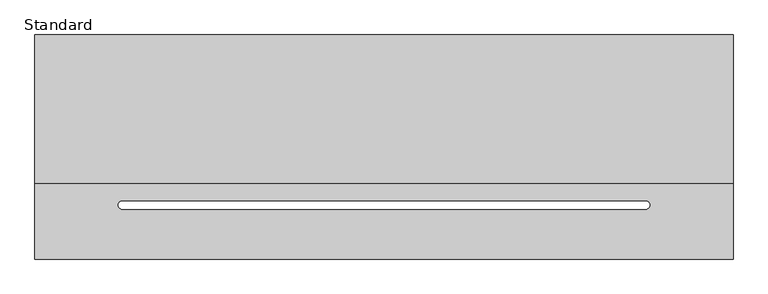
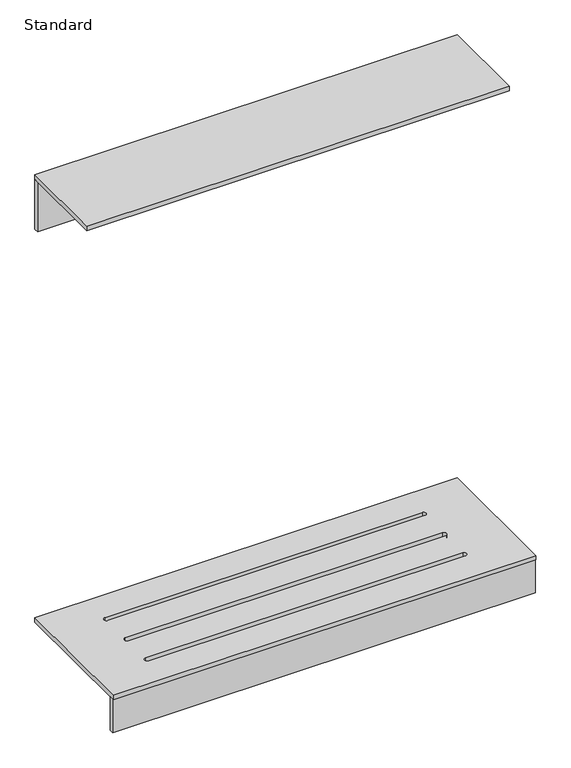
"""IFC4 building model written with IfcOpenShell, lengths in millimetres: furniture geometry, X_Bench-Wall-Duracube-Standard : Standard."""

import ifcopenshell
import ifcopenshell.guid

model = None  # the IFC model being written
_history = None  # IfcOwnerHistory: only IFC2X3 demands one
_inside = {}  # id of a spatial element -> (the spatial element, [elements in it])
_under = {}  # id of a project, library or spatial element -> (it, [spatial elements below it])
_declared = {}  # id of a project -> (the project, [libraries it declares])
_typed = {}  # id of a type object -> (the type object, [elements of that type])
_made_of = {}  # id of a material, layer set ... -> (it, [elements and type objects made of it])


def new_model(schema):
    """Start an empty IFC model of exactly this schema.

    Asked for "IFC4X3", IfcOpenShell would pick the latest addendum, in which some entities
    have other attributes; the version numbers below select the first issue.
    IFC2X3 requires an IfcOwnerHistory on every rooted entity: one is made here for all.
    """
    global model, _history
    if schema == "IFC4X3":
        model = ifcopenshell.file(schema_version=(4, 3, 0, 0))
    else:
        model = ifcopenshell.file(schema=schema)
    _inside.clear()
    _under.clear()
    _declared.clear()
    _typed.clear()
    _made_of.clear()
    _history = None
    if model.schema == "IFC2X3":
        org = make("IfcOrganization", Name="unknown")
        user = make(
            "IfcPersonAndOrganization",
            ThePerson=make("IfcPerson", FamilyName="unknown"),
            TheOrganization=org,
        )
        app = make(
            "IfcApplication",
            ApplicationDeveloper=org,
            Version="unknown",
            ApplicationFullName="unknown",
            ApplicationIdentifier="unknown",
        )
        _history = make(
            "IfcOwnerHistory",
            OwningUser=user,
            OwningApplication=app,
            ChangeAction="ADDED",
            CreationDate=0,
        )
    return model


def make(cls, **values):
    """One entity of the class cls with the attributes given. An attribute that is None is left unset."""
    return model.create_entity(
        cls, **{name: value for name, value in values.items() if value is not None}
    )


def rooted(cls, **values):
    """An entity with a GlobalId (a new one), such as an element, a storey or a relation."""
    return make(cls, GlobalId=ifcopenshell.guid.new(), OwnerHistory=_history, **values)


def si_unit(unit_type, name, prefix=None):
    """IfcSIUnit, for example si_unit("LENGTHUNIT", "METRE", prefix="MILLI")."""
    return make("IfcSIUnit", UnitType=unit_type, Prefix=prefix, Name=name)


def assignment(units):
    """IfcUnitAssignment: the units of a project."""
    return None if units is None else make("IfcUnitAssignment", Units=units)


def point(xyz):
    """IfcCartesianPoint."""
    return None if xyz is None else make("IfcCartesianPoint", Coordinates=xyz)


def direction(xyz):
    """IfcDirection."""
    return None if xyz is None else make("IfcDirection", DirectionRatios=xyz)


def frame(location, z_axis=None, x_axis=None):
    """IfcAxis2Placement3D, a coordinate frame: its origin and axes. An axis left out is left unset."""
    return make(
        "IfcAxis2Placement3D",
        Location=point(location),
        Axis=direction(z_axis),
        RefDirection=direction(x_axis),
    )


def frame_2d(location, x_axis=None):
    """IfcAxis2Placement2D, a coordinate frame in the plane: its origin and x axis."""
    return make(
        "IfcAxis2Placement2D", Location=point(location), RefDirection=direction(x_axis)
    )


def origin():
    """The frame at (0, 0, 0) with its axes left unset."""
    return frame((0.0, 0.0, 0.0))


def place(relative_to, where):
    """IfcLocalPlacement: puts the frame where relative to a parent placement (None: the world)."""
    return make(
        "IfcLocalPlacement", PlacementRelTo=relative_to, RelativePlacement=where
    )


def context(
    kind, dimensions, precision=None, world=None, true_north=None, identifier=None
):
    """IfcGeometricRepresentationContext, for example the 3D "Model" context."""
    return make(
        "IfcGeometricRepresentationContext",
        ContextIdentifier=identifier,
        ContextType=kind,
        CoordinateSpaceDimension=dimensions,
        Precision=precision,
        WorldCoordinateSystem=world,
        TrueNorth=true_north,
    )


def project(units=None, contexts=None):
    """IfcProject with its units and contexts."""
    return rooted(
        "IfcProject",
        Name="project",
        RepresentationContexts=contexts,
        UnitsInContext=assignment(units),
    )


def spatial(cls, under=None, at=None, **own):
    """A site, building, storey or space (cls), placed at a placement, below another one or the project."""
    s = rooted(cls, ObjectPlacement=at, **own)
    if under is not None:
        _under.setdefault(under.id(), (under, []))[1].append(s)
    return s


def polyline(points):
    """IfcPolyline through the points."""
    return make("IfcPolyline", Points=[point(p) for p in points])


def circle_curve(where, radius):
    """IfcCircle in the frame where."""
    return make("IfcCircle", Position=where, Radius=radius)


def trimmed(basis, trim1, trim2, sense, master):
    """IfcTrimmedCurve: the piece of a basis curve between two trims."""
    return make(
        "IfcTrimmedCurve",
        BasisCurve=basis,
        Trim1=trim1,
        Trim2=trim2,
        SenseAgreement=sense,
        MasterRepresentation=master,
    )


def segment(curve, same_sense, transition):
    """IfcCompositeCurveSegment."""
    return make(
        "IfcCompositeCurveSegment",
        Transition=transition,
        SameSense=same_sense,
        ParentCurve=curve,
    )


def composite_curve(segments, self_intersect=None):
    """IfcCompositeCurve: segments joined end to end."""
    return make("IfcCompositeCurve", Segments=segments, SelfIntersect=self_intersect)


def outline(outer, holes=None, kind="AREA"):
    """IfcArbitraryClosedProfileDef: a profile drawn as a closed curve; with holes, ...WithVoids."""
    if holes is None:
        return make("IfcArbitraryClosedProfileDef", ProfileType=kind, OuterCurve=outer)
    return make(
        "IfcArbitraryProfileDefWithVoids",
        ProfileType=kind,
        OuterCurve=outer,
        InnerCurves=holes,
    )


def extrude(swept, where, along, depth):
    """IfcExtrudedAreaSolid: the profile swept, set in the frame where, extruded along a direction by depth."""
    return make(
        "IfcExtrudedAreaSolid",
        SweptArea=swept,
        Position=where,
        ExtrudedDirection=direction(along),
        Depth=depth,
    )


def shape(context_of_items, identifier, shape_type, items):
    """IfcShapeRepresentation: the items that make up one representation, for example the "Body"."""
    return make(
        "IfcShapeRepresentation",
        ContextOfItems=context_of_items,
        RepresentationIdentifier=identifier,
        RepresentationType=shape_type,
        Items=items,
    )


def source(mapping_origin, context_of_items, identifier, shape_type, items):
    """IfcRepresentationMap: a shape defined once, which mapped items show again and again."""
    return make(
        "IfcRepresentationMap",
        MappingOrigin=mapping_origin,
        MappedRepresentation=shape(context_of_items, identifier, shape_type, items),
    )


def transform(
    local_origin,
    x_axis=None,
    y_axis=None,
    z_axis=None,
    scale=None,
    scale2=None,
    scale3=None,
    uniform=True,
):
    """IfcCartesianTransformationOperator3D, or its non-uniform kind. x_axis, y_axis, z_axis: its Axis1, 2, 3."""
    if uniform:
        return make(
            "IfcCartesianTransformationOperator3D",
            Axis1=direction(x_axis),
            Axis2=direction(y_axis),
            LocalOrigin=point(local_origin),
            Scale=scale,
            Axis3=direction(z_axis),
        )
    return make(
        "IfcCartesianTransformationOperator3DnonUniform",
        Axis1=direction(x_axis),
        Axis2=direction(y_axis),
        LocalOrigin=point(local_origin),
        Scale=scale,
        Axis3=direction(z_axis),
        Scale2=scale2,
        Scale3=scale3,
    )


def mapped(mapping_source, mapping_target):
    """IfcMappedItem: shows the shape of a source again, moved by a transform."""
    return make(
        "IfcMappedItem", MappingSource=mapping_source, MappingTarget=mapping_target
    )


def made_of(thing, what):
    """Note that an element or type object is made of a material, layer set ...; save() writes the relation."""
    if what is not None:
        _made_of.setdefault(what.id(), (what, []))[1].append(thing)
    return thing


def element(
    cls,
    number,
    at=None,
    inside=None,
    cuts=None,
    type_object=None,
    material=None,
    context=None,
    identifier="Body",
    shape_type=None,
    held_by="IfcProductDefinitionShape",
    body=None,
    shapes=None,
    **own,
):
    """One element of the class cls, such as IfcWall. Its Tag is "e" and its number.

    at: its placement. inside: the storey or other place that contains it. cuts: it is an
    opening in that element (IfcRelVoidsElement). A single representation is given by context,
    identifier, shape_type and body (its items); several are given by shapes. held_by: the class
    of the entity that holds the representations. save() writes the other relations.
    """
    e = rooted(cls, Tag="e%d" % number, ObjectPlacement=at, **own)
    if body is not None:
        shapes = [shape(context, identifier, shape_type, body)]
    if shapes is not None:
        e.Representation = make(held_by, Representations=shapes)
    if inside is not None:
        _inside.setdefault(inside.id(), (inside, []))[1].append(e)
    if cuts is not None:
        rooted(
            "IfcRelVoidsElement", RelatingBuildingElement=cuts, RelatedOpeningElement=e
        )
    if type_object is not None:
        _typed.setdefault(type_object.id(), (type_object, []))[1].append(e)
    return made_of(e, material)


def aggregate(whole, parts):
    """IfcRelAggregates: a whole, such as a stair, and the parts it consists of."""
    return rooted("IfcRelAggregates", RelatingObject=whole, RelatedObjects=parts)


def save(model, path):
    """Write the relations noted so far, then the file.

    IfcRelAggregates (storeys below a building ...), IfcRelContainedInSpatialStructure (elements
    in a storey), IfcRelDefinesByType, IfcRelAssociatesMaterial and IfcRelDeclares: one each for
    every whole, place, type object, material and project.
    """
    for whole, parts in _under.values():
        aggregate(whole, parts)
    for where, things in _inside.values():
        rooted(
            "IfcRelContainedInSpatialStructure",
            RelatedElements=things,
            RelatingStructure=where,
        )
    for kind, things in _typed.values():
        rooted("IfcRelDefinesByType", RelatedObjects=things, RelatingType=kind)
    for what, things in _made_of.values():
        rooted("IfcRelAssociatesMaterial", RelatedObjects=things, RelatingMaterial=what)
    for by, libraries in _declared.values():
        rooted("IfcRelDeclares", RelatingContext=by, RelatedDefinitions=libraries)
    model.write(path)


def standard_f786651c(model_context):
    return source(origin(), model_context, "Body", "SweptSolid", [
        extrude(outline(polyline([(644.7003264, -407.5), (644.7003264, -662.5), (-555.2996736, -662.5), (-555.2996736, -407.5), (644.7003264, -407.5)])), frame((0.0, 0.0, 1787.0), z_axis=(0.0, 0.0, 1.0), x_axis=(1.0, 0.0, 0.0)), (0.0, 0.0, 1.0), 13.0),
        extrude(outline(polyline([(644.7003264, -407.5), (644.7003264, -420.5), (-555.2996736, -420.5), (-555.2996736, -407.5), (644.7003264, -407.5)])), frame((0.0, 0.0, 1637.0), z_axis=(0.0, 0.0, 1.0), x_axis=(1.0, 0.0, 0.0)), (0.0, 0.0, 1.0), 150.0),
        extrude(outline(polyline([(644.7003264, -777.5), (644.7003264, -790.5), (-555.2996736, -790.5), (-555.2996736, -777.5), (644.7003264, -777.5)])), frame((0.0, 0.0, 357.0), z_axis=(0.0, 0.0, 1.0), x_axis=(1.0, 0.0, 0.0)), (0.0, 0.0, 1.0), 100.0),
        extrude(outline(polyline([(644.7003264, -792.5), (-555.2996736, -792.5), (-555.2996736, -407.5), (644.7003264, -407.5), (644.7003264, -792.5)]), holes=[composite_curve([segment(polyline([(494.7003264, -493.25), (-405.2996736, -493.25)]), True, "CONTINUOUS"), segment(trimmed(circle_curve(frame_2d((-405.2996736, -500.25)), 7.0), [point((-405.2996736, -493.25))], [point((-405.2996736, -507.25))], True, "CARTESIAN"), True, "CONTINUOUS"), segment(polyline([(-405.2996736, -507.25), (494.7003264, -507.25)]), True, "CONTINUOUS"), segment(trimmed(circle_curve(frame_2d((494.7003264, -500.25)), 7.0), [point((494.7003264, -507.25))], [point((494.7003264, -493.25))], True, "CARTESIAN"), True, "CONTINUOUS")], self_intersect=False), composite_curve([segment(polyline([(494.7003264, -593.0), (-405.2996736, -593.0)]), True, "CONTINUOUS"), segment(trimmed(circle_curve(frame_2d((-405.2996736, -600.0)), 7.0), [point((-405.2996736, -593.0))], [point((-405.2996736, -607.0))], True, "CARTESIAN"), True, "CONTINUOUS"), segment(polyline([(-405.2996736, -607.0), (494.7003264, -607.0)]), True, "CONTINUOUS"), segment(trimmed(circle_curve(frame_2d((494.7003264, -600.0)), 7.0), [point((494.7003264, -607.0))], [point((494.7003264, -593.0))], True, "CARTESIAN"), True, "CONTINUOUS")], self_intersect=False), composite_curve([segment(polyline([(494.7003264, -692.75), (-405.2996736, -692.75)]), True, "CONTINUOUS"), segment(trimmed(circle_curve(frame_2d((-405.2996736, -699.75)), 7.0), [point((-405.2996736, -692.75))], [point((-405.2996736, -706.75))], True, "CARTESIAN"), True, "CONTINUOUS"), segment(polyline([(-405.2996736, -706.75), (494.7003264, -706.75)]), True, "CONTINUOUS"), segment(trimmed(circle_curve(frame_2d((494.7003264, -699.75)), 7.0), [point((494.7003264, -706.75))], [point((494.7003264, -692.75))], True, "CARTESIAN"), True, "CONTINUOUS")], self_intersect=False)]), frame((0.0, 0.0, 457.0), z_axis=(0.0, 0.0, 1.0), x_axis=(1.0, 0.0, 0.0)), (0.0, 0.0, 1.0), 13.0),
    ])


if __name__ == "__main__":
    model = new_model("IFC4")
    model_context = context("Model", 3, world=origin())
    ifc_project = project(units=[si_unit("LENGTHUNIT", "METRE", prefix="MILLI")], contexts=[model_context])
    site = spatial("IfcSite", under=ifc_project)
    building = spatial("IfcBuilding", under=site)
    placement = place(None, origin())
    standard_shape = standard_f786651c(model_context)
    element("IfcFurniture", 1, ObjectType="X_Bench-Wall-Duracube-Standard : Standard", at=placement, inside=building, context=model_context, shape_type="MappedRepresentation", body=[
        mapped(standard_shape, transform((0.0, 0.0, 0.0), x_axis=(1.0, 0.0, 0.0), y_axis=(0.0, 1.0, 0.0), z_axis=(0.0, 0.0, 1.0))),
    ])
    save(model, "model.ifc")
